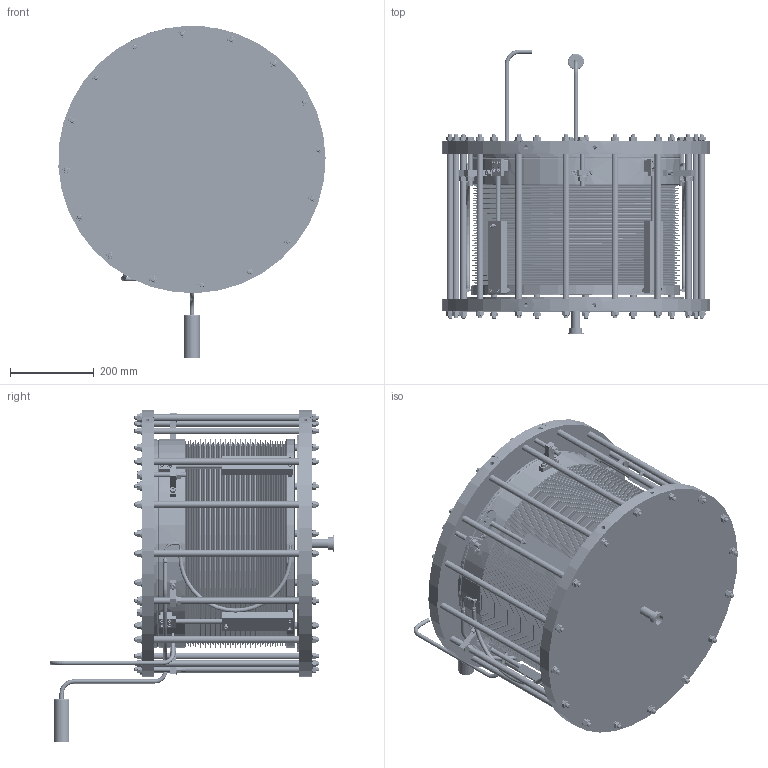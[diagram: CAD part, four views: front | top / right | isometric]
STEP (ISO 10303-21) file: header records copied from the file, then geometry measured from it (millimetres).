
FILE_DESCRIPTION(/* description */ ('靶站充气型波纹管'),/* implementation_level */ '2;1');
FILE_NAME(/* name */ 'D:\work\inventor\缪子线3-4\氦容器5-7\充气型波纹管_表面缪侧_390mm检漏工装.stp',/* time_stamp */ '2026-09-14T17:05:47+08:00',/* author */ ('Administrator'),/* organization */ (''),/* preprocessor_version */ 'ST-DEVELOPER v18',/* originating_system */ 'Autodesk Inventor 2020',/* authorisation */ '');
FILE_SCHEMA (('AUTOMOTIVE_DESIGN { 1 0 10303 214 3 1 1 }'));
Length unit declared in the file: millimetre
Products named in the file (39): 充气型波纹管_表面缪侧_
390mm检漏工装; 厚法兰_表面缪侧_390mm; 内膨胀节_表面缪侧_390m
m; 外膨胀节_表面缪侧_390m
m; 薄膜法兰_表面缪侧_390m
m; 外薄膜_表面缪侧_390mm; 内薄膜-_表面缪侧_390mm; 右两通块_表面缪侧_390m
m; 左两通块_表面缪侧_390m
m; 两通块_表面缪侧_390mm; 软连接管表面缪侧_390mm长行程; 10mm三通_表面缪侧_390mm; 异型管接头_表面缪侧_
390mm; 气压管_表面缪侧_390mm; 导向机构; 螺钉 GB/T 70.1 M6 x 30(1); 导向滑块2_表面缪侧_390
mm; 垫圈 GB 93-87 6; 导向滑块1_表面缪侧_390
mm; 螺钉 GB/T 70.1 M6 x 12(1); 螺钉 GB/T 70.1 M6 x 25(1); 挡块; 螺钉 GB/T 70.1 M4 x 12(1); 真空连接管1; 真空管连接管_200mm_表面缪侧_
390mm; 真空管汇总管; 密封法兰390; 固定法兰390; 螺母 GB/T 6170 M12; 固定板390; 六角螺栓 GB/T 5780 M12 x 110; 平垫圈 GB/T 97.1 12; 螺钉 GB/T 70.1 M8 x 12(1); 限距管用于390长波纹管; 螺杆用于390长波纹管; 平垫圈 GB/T 97.1 10; 螺母 GB/T 6170 M10; KF25连接管; KF25
Assembly tree (183 placements, depth 3):
  充气型波纹管_表面缪侧_
390mm检漏工装
    厚法兰_表面缪侧_390mm
    内膨胀节_表面缪侧_390m
m
    外膨胀节_表面缪侧_390m
m
    薄膜法兰_表面缪侧_390m
m
    外薄膜_表面缪侧_390mm
    内薄膜-_表面缪侧_390mm
    两通块_表面缪侧_390mm  x2
    右两通块_表面缪侧_390m
m
    软连接管表面缪侧_390mm长行程  x2
    左两通块_表面缪侧_390m
m
    异型管接头_表面缪侧_
390mm  x2
    10mm三通_表面缪侧_390mm
    气压管_表面缪侧_390mm
    真空管连接管_200mm_表面缪侧_
390mm  x2
    导向机构  x4
      螺钉 GB/T 70.1 M6 x 30(1)
      垫圈 GB 93-87 6
      导向滑块2_表面缪侧_390
mm
      螺钉 GB/T 70.1 M6 x 25(1)
      导向滑块1_表面缪侧_390
mm
      螺钉 GB/T 70.1 M6 x 12(1)
      挡块
      螺钉 GB/T 70.1 M4 x 12(1)
    真空连接管1  x2
    真空管汇总管
    密封法兰390
    固定法兰390
    螺母 GB/T 6170 M12  x6
    平垫圈 GB/T 97.1 12  x12
    固定板390  x6
    六角螺栓 GB/T 5780 M12 x 110  x6
    螺钉 GB/T 70.1 M8 x 12(1)  x12
    限距管用于390长波纹管  x16
    螺母 GB/T 6170 M10  x32
    螺杆用于390长波纹管  x16
    平垫圈 GB/T 97.1 10  x32
    KF25连接管
    KF25
Bounding box: 639.42 x 681.7 x 794.62 mm (x, y, z)
Volume: 29974093.1 mm3; surface area: 15884891.4 mm2
Topology: 230 solids, 230 shells, 4452 faces, 10862 edges, 6967 vertices
Faces by surface type: cone 2215, plane 1346, cylinder 675, torus 198, bspline 18
Full cylindrical faces by diameter (mm): 3.242 x4, 4 x25, 4.5 x4, 4.917 x28, 5 x8, 6 x57, 6.647 x12, 7 x28, 8 x32, 8.376 x32, 9 x12, 10 x73, 10.106 x10, 10.4 x16, 10.5 x32, 11 x54, 12 x10, 12.2 x4, 13 x24, 13.5 x12, 15 x1, 16 x16, 18 x1, 20 x33, 22 x3, 24 x12, 25 x1, 31 x1, 32 x1, 38 x1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
Entity records: 69578 total; most frequent: DIRECTION 13104, CARTESIAN_POINT 12951, ORIENTED_EDGE 10818, AXIS2_PLACEMENT_3D 5517, EDGE_CURVE 5409, VERTEX_POINT 3443, CIRCLE 3134, EDGE_LOOP 2392
